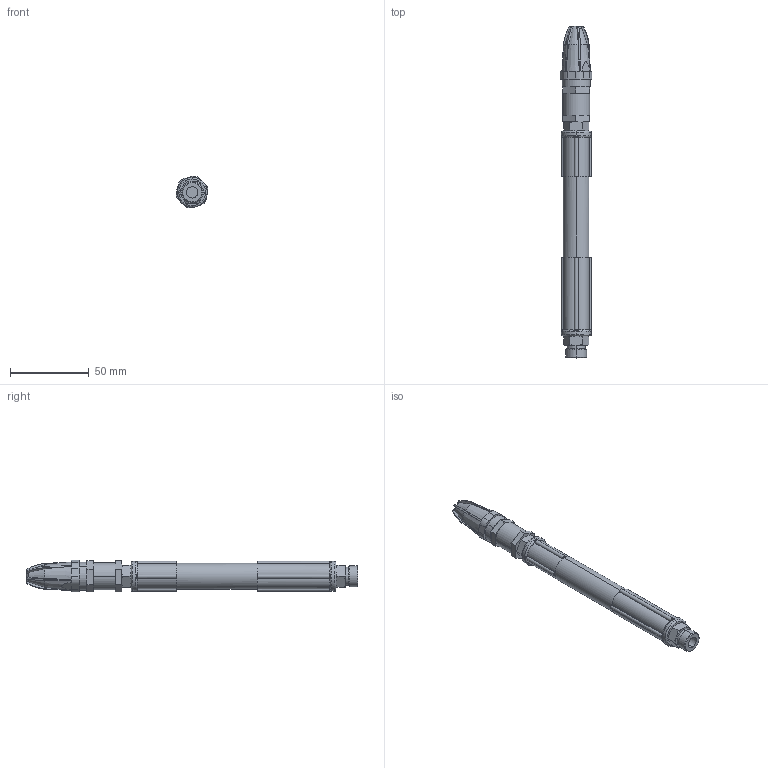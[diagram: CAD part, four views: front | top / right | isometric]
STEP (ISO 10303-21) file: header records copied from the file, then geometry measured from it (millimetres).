
FILE_DESCRIPTION (( 'STEP AP214' ), '1' );
FILE_NAME ('Silvent 220L.STEP', '2008-10-17T13:33:37', ( ' ' ), ( '' ), 'SwSTEP 2.0', 'SolidWorks 2005278', '' );
FILE_SCHEMA (( 'AUTOMOTIVE_DESIGN' ));
Length unit declared in the file: millimetre
Products named in the file (4): A3 14; Silvent 209L; Silvent 820; Silvent 220L
Assembly tree (3 placements, depth 2):
  Silvent 220L
    Silvent 209L
    A3 14
    Silvent 820
Bounding box: 20.12 x 210.65 x 20.04 mm (x, y, z)
Volume: 36880 mm3; surface area: 18877.3 mm2
Topology: 3 solids, 4 shells, 276 faces, 675 edges, 400 vertices
Faces by surface type: plane 115, cylinder 75, cone 46, bspline 22, torus 18
Entity records: 21123 total; most frequent: CARTESIAN_POINT 12919, DIRECTION 1415, ORIENTED_EDGE 1318, EDGE_CURVE 659, AXIS2_PLACEMENT_3D 610, VERTEX_POINT 400, CIRCLE 350, EDGE_LOOP 289
